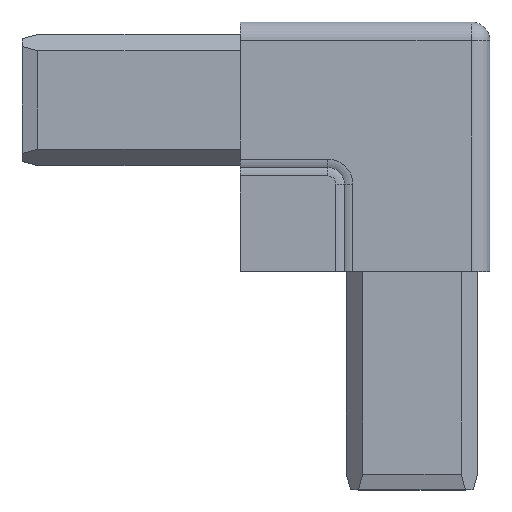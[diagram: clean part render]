
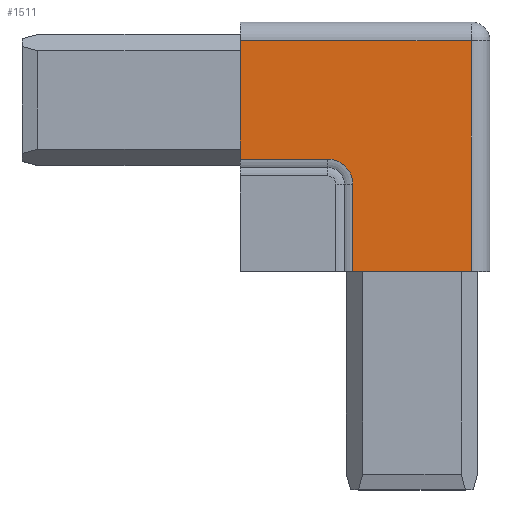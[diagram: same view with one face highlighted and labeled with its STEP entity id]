
A CAD part, top view. The second image highlights one B-rep face of the part: STEP entity #1511.
In plain terms, the highlighted planar face has unit normal (0, 0, 1).
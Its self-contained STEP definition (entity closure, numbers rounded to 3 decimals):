
#183 = AXIS2_PLACEMENT_3D ( 'NONE', #623, #1646, #606 ) ;
#221 = LINE ( 'NONE', #2404, #1304 ) ;
#251 = VERTEX_POINT ( 'NONE', #2105 ) ;
#297 = EDGE_CURVE ( 'NONE', #2870, #251, #2954, .T. ) ;
#306 = ORIENTED_EDGE ( 'NONE', *, *, #548, .F. ) ;
#400 = LINE ( 'NONE', #2583, #2722 ) ;
#411 = CARTESIAN_POINT ( 'NONE',  ( -13.5, -9.48, 12.5 ) ) ;
#414 = VECTOR ( 'NONE', #503, 1000. ) ;
#467 = DIRECTION ( 'NONE',  ( -1., 0., 0. ) ) ;
#503 = DIRECTION ( 'NONE',  ( 1., 0., 0. ) ) ;
#512 = DIRECTION ( 'NONE',  ( 0., -1., 0. ) ) ;
#548 = EDGE_CURVE ( 'NONE', #3246, #2451, #221, .T. ) ;
#558 = VERTEX_POINT ( 'NONE', #1992 ) ;
#606 = DIRECTION ( 'NONE',  ( -1., 0., 0. ) ) ;
#623 = CARTESIAN_POINT ( 'NONE',  ( -13.5, -13.5, 12.5 ) ) ;
#888 = DIRECTION ( 'NONE',  ( 0., 1., 0. ) ) ;
#982 = ORIENTED_EDGE ( 'NONE', *, *, #3383, .T. ) ;
#1020 = EDGE_CURVE ( 'NONE', #2147, #2451, #400, .T. ) ;
#1062 = DIRECTION ( 'NONE',  ( 0., 0., 1. ) ) ;
#1111 = CARTESIAN_POINT ( 'NONE',  ( -27.5, -9.48, 12.5 ) ) ;
#1127 = VECTOR ( 'NONE', #467, 1000. ) ;
#1230 = CARTESIAN_POINT ( 'NONE',  ( -27.5, 9.5, 12.5 ) ) ;
#1269 = AXIS2_PLACEMENT_3D ( 'NONE', #3508, #1062, #3528 ) ;
#1304 = VECTOR ( 'NONE', #3492, 1000. ) ;
#1325 = LINE ( 'NONE', #3504, #414 ) ;
#1366 = PLANE ( 'NONE',  #1269 ) ;
#1394 = LINE ( 'NONE', #1946, #2183 ) ;
#1416 = DIRECTION ( 'NONE',  ( 0., -1., 0. ) ) ;
#1418 = ORIENTED_EDGE ( 'NONE', *, *, #1834, .T. ) ;
#1511 = ADVANCED_FACE ( 'NONE', ( #2422 ), #1366, .T. ) ;
#1551 = CARTESIAN_POINT ( 'NONE',  ( 9.5, -27.5, 12.5 ) ) ;
#1646 = DIRECTION ( 'NONE',  ( 0., 0., -1. ) ) ;
#1711 = ORIENTED_EDGE ( 'NONE', *, *, #1020, .T. ) ;
#1761 = ORIENTED_EDGE ( 'NONE', *, *, #2413, .T. ) ;
#1834 = EDGE_CURVE ( 'NONE', #251, #2729, #1325, .T. ) ;
#1841 = CIRCLE ( 'NONE', #183, 4.02 ) ;
#1946 = CARTESIAN_POINT ( 'NONE',  ( 9.5, 12.5, 12.5 ) ) ;
#1992 = CARTESIAN_POINT ( 'NONE',  ( 9.5, 9.5, 12.5 ) ) ;
#2105 = CARTESIAN_POINT ( 'NONE',  ( -9.48, -27.5, 12.5 ) ) ;
#2147 = VERTEX_POINT ( 'NONE', #1230 ) ;
#2183 = VECTOR ( 'NONE', #888, 1000. ) ;
#2194 = ORIENTED_EDGE ( 'NONE', *, *, #297, .T. ) ;
#2250 = EDGE_LOOP ( 'NONE', ( #1761, #982, #1711, #306, #2603, #2194, #1418 ) ) ;
#2362 = EDGE_CURVE ( 'NONE', #3246, #2870, #1841, .T. ) ;
#2392 = CARTESIAN_POINT ( 'NONE',  ( -9.48, -13.5, 12.5 ) ) ;
#2404 = CARTESIAN_POINT ( 'NONE',  ( -13.5, -9.48, 12.5 ) ) ;
#2413 = EDGE_CURVE ( 'NONE', #2729, #558, #1394, .T. ) ;
#2417 = CARTESIAN_POINT ( 'NONE',  ( 12.5, 9.5, 12.5 ) ) ;
#2422 = FACE_OUTER_BOUND ( 'NONE', #2250, .T. ) ;
#2437 = VECTOR ( 'NONE', #512, 1000. ) ;
#2449 = CARTESIAN_POINT ( 'NONE',  ( -9.48, -13.5, 12.5 ) ) ;
#2451 = VERTEX_POINT ( 'NONE', #1111 ) ;
#2583 = CARTESIAN_POINT ( 'NONE',  ( -27.5, -27.5, 12.5 ) ) ;
#2603 = ORIENTED_EDGE ( 'NONE', *, *, #2362, .T. ) ;
#2722 = VECTOR ( 'NONE', #1416, 1000. ) ;
#2729 = VERTEX_POINT ( 'NONE', #1551 ) ;
#2870 = VERTEX_POINT ( 'NONE', #2449 ) ;
#2954 = LINE ( 'NONE', #2392, #2437 ) ;
#3155 = LINE ( 'NONE', #2417, #1127 ) ;
#3246 = VERTEX_POINT ( 'NONE', #411 ) ;
#3383 = EDGE_CURVE ( 'NONE', #558, #2147, #3155, .T. ) ;
#3492 = DIRECTION ( 'NONE',  ( -1., 0., 0. ) ) ;
#3504 = CARTESIAN_POINT ( 'NONE',  ( 12.5, -27.5, 12.5 ) ) ;
#3508 = CARTESIAN_POINT ( 'NONE',  ( 12.5, 12.5, 12.5 ) ) ;
#3528 = DIRECTION ( 'NONE',  ( 1., 0., 0. ) ) ;
